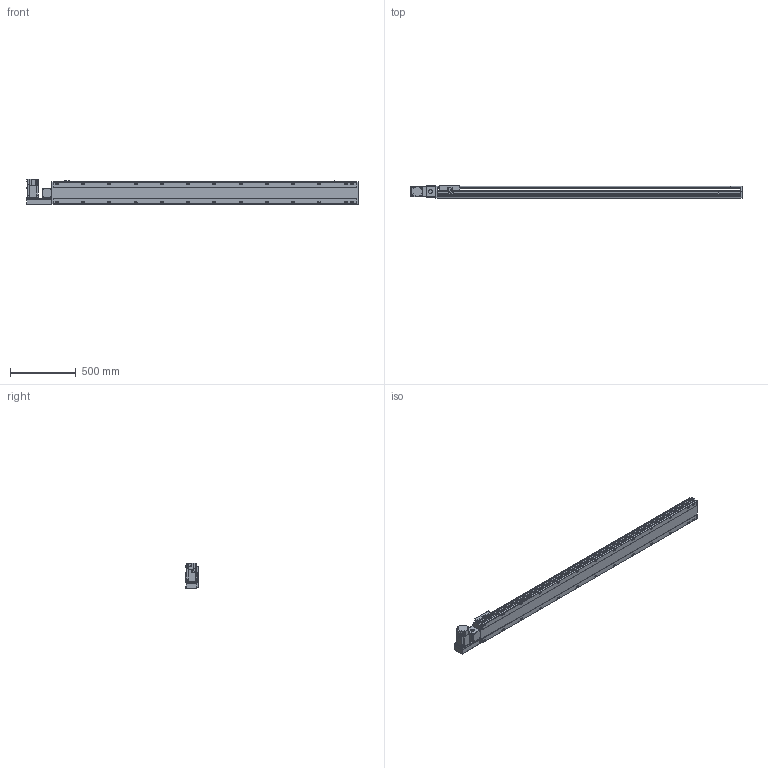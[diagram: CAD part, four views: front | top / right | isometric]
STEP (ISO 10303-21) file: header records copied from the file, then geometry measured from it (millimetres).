
FILE_DESCRIPTION( ( 'STEP AP214' ), '1' );
FILE_NAME( 'x:/temp/worker_4/temp/exporttempdir_2248_218_DdAxO/format_0/PBS170-P40-S2050-L-T75-C1-N(0).stp', '2022-06-07T06:58:08', ( 'License CC BY-ND 4.0' ), ( 'CADENAS' ), ' ', 'PARTsolutions', ' ' );
FILE_SCHEMA( ( 'AUTOMOTIVE_DESIGN { 1 0 10303 214 1 1 1 1 }' ) );
Length unit declared in the file: millimetre
Products named in the file (7): PBS170-P40-S2050-L-T75-C1-N(0); _PBS170-S2050()_body; _PBS170T-L_motors; _T75-p1; _PBS170_sliser; _PBS170_plant; _PBS170_sensor
Assembly tree (8 placements, depth 2):
  PBS170-P40-S2050-L-T75-C1-N(0)
    _PBS170-S2050()_body
    _PBS170T-L_motors
    _T75-p1
    _PBS170_sliser
    _PBS170_plant
    _PBS170_sensor  x3
Bounding box: 2528 x 97 x 197.3 mm (x, y, z)
Volume: 18469247.2 mm3; surface area: 2343893.3 mm2
Topology: 8 solids, 8 shells, 1162 faces, 3075 edges, 2004 vertices
Faces by surface type: plane 717, cylinder 379, cone 56, sphere 8, torus 2
Full cylindrical faces by diameter (mm): 3.242 x4, 4 x2, 4.4 x4, 4.5 x6, 4.917 x4, 6 x9, 6.647 x34, 7 x2, 7.5 x4, 8 x8, 8.5 x26, 10 x4, 10.5 x26, 11 x2, 30 x2, 40 x1, 70 x1
Entity records: 42950 total; most frequent: CARTESIAN_POINT 7061, DIRECTION 5650, ORIENTED_EDGE 5328, EDGE_CURVE 2664, AXIS2_PLACEMENT_3D 1987, VERTEX_POINT 1850, LINE 1676, VECTOR 1676
